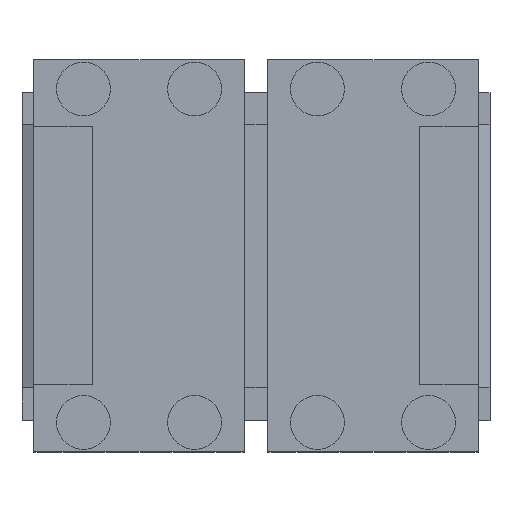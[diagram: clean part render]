
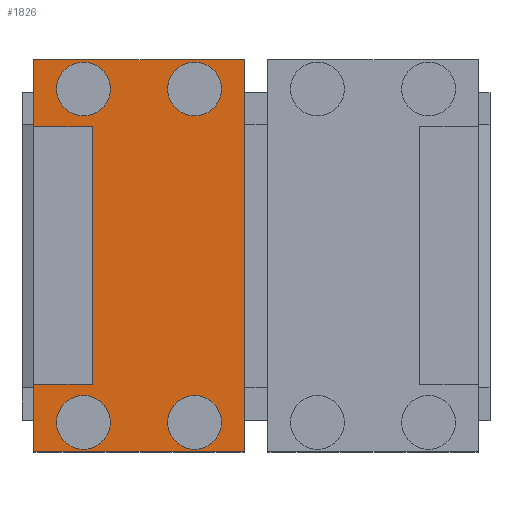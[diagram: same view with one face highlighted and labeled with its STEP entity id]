
A CAD part, top view. The second image highlights one B-rep face of the part: STEP entity #1826.
In plain terms, the highlighted planar face has unit normal (0, 0, 1).
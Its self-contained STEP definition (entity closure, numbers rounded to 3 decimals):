
#73 = LINE ( 'NONE', #2094, #2585 ) ;
#77 = CIRCLE ( 'NONE', #6212, 4.6 ) ;
#87 = DIRECTION ( 'NONE',  ( -1., 0., 0. ) ) ;
#145 = CARTESIAN_POINT ( 'NONE',  ( -38., -33.5, 114.5 ) ) ;
#157 = DIRECTION ( 'NONE',  ( -1., 0., 0. ) ) ;
#183 = CIRCLE ( 'NONE', #1551, 4.6 ) ;
#219 = EDGE_CURVE ( 'NONE', #2971, #4561, #73, .T. ) ;
#225 = ORIENTED_EDGE ( 'NONE', *, *, #3938, .F. ) ;
#239 = EDGE_CURVE ( 'NONE', #2971, #4268, #4981, .T. ) ;
#242 = DIRECTION ( 'NONE',  ( 1., 0., 0. ) ) ;
#303 = CARTESIAN_POINT ( 'NONE',  ( -38., 33.5, 114.5 ) ) ;
#338 = CARTESIAN_POINT ( 'NONE',  ( -5.9, -28.5, 114.5 ) ) ;
#404 = AXIS2_PLACEMENT_3D ( 'NONE', #3892, #5922, #1378 ) ;
#425 = EDGE_LOOP ( 'NONE', ( #5408, #603 ) ) ;
#451 = EDGE_CURVE ( 'NONE', #2799, #6516, #6190, .T. ) ;
#597 = CARTESIAN_POINT ( 'NONE',  ( -24.9, 28.5, 114.5 ) ) ;
#603 = ORIENTED_EDGE ( 'NONE', *, *, #2152, .F. ) ;
#646 = DIRECTION ( 'NONE',  ( 0., 0., 1. ) ) ;
#666 = CARTESIAN_POINT ( 'NONE',  ( -38., -33.5, 114.5 ) ) ;
#669 = VERTEX_POINT ( 'NONE', #3206 ) ;
#712 = DIRECTION ( 'NONE',  ( 0., 1., 0. ) ) ;
#799 = ORIENTED_EDGE ( 'NONE', *, *, #2078, .F. ) ;
#900 = EDGE_CURVE ( 'NONE', #3516, #6406, #5997, .T. ) ;
#902 = DIRECTION ( 'NONE',  ( 0., 0., 1. ) ) ;
#903 = DIRECTION ( 'NONE',  ( -1., 0., 0. ) ) ;
#1092 = EDGE_CURVE ( 'NONE', #4268, #2542, #4802, .T. ) ;
#1190 = FACE_BOUND ( 'NONE', #4652, .T. ) ;
#1250 = CARTESIAN_POINT ( 'NONE',  ( -29.5, -28.5, 114.5 ) ) ;
#1273 = CARTESIAN_POINT ( 'NONE',  ( -38., -22., 114.5 ) ) ;
#1282 = DIRECTION ( 'NONE',  ( -1., 0., 0. ) ) ;
#1353 = DIRECTION ( 'NONE',  ( -1., 0., 0. ) ) ;
#1378 = DIRECTION ( 'NONE',  ( -1., 0., 0. ) ) ;
#1495 = CIRCLE ( 'NONE', #5953, 4.6 ) ;
#1510 = AXIS2_PLACEMENT_3D ( 'NONE', #3132, #646, #87 ) ;
#1551 = AXIS2_PLACEMENT_3D ( 'NONE', #1250, #5264, #1353 ) ;
#1567 = EDGE_CURVE ( 'NONE', #4538, #6406, #4791, .T. ) ;
#1577 = EDGE_CURVE ( 'NONE', #669, #3516, #5820, .T. ) ;
#1586 = CARTESIAN_POINT ( 'NONE',  ( -24.9, -28.5, 114.5 ) ) ;
#1589 = CARTESIAN_POINT ( 'NONE',  ( -38., 22., 114.5 ) ) ;
#1641 = AXIS2_PLACEMENT_3D ( 'NONE', #4406, #5406, #903 ) ;
#1686 = FACE_BOUND ( 'NONE', #5364, .T. ) ;
#1746 = CARTESIAN_POINT ( 'NONE',  ( -10.5, -28.5, 114.5 ) ) ;
#1794 = DIRECTION ( 'NONE',  ( 0., 1., 0. ) ) ;
#1816 = CARTESIAN_POINT ( 'NONE',  ( -2., -33.5, 114.5 ) ) ;
#1826 = ADVANCED_FACE ( 'NONE', ( #4047, #1686, #3706, #5734, #1190 ), #6071, .F. ) ;
#1995 = VECTOR ( 'NONE', #4656, 1000. ) ;
#2078 = EDGE_CURVE ( 'NONE', #5474, #5091, #1495, .T. ) ;
#2094 = CARTESIAN_POINT ( 'NONE',  ( -2., -33.5, 114.5 ) ) ;
#2099 = CIRCLE ( 'NONE', #404, 4.6 ) ;
#2133 = ORIENTED_EDGE ( 'NONE', *, *, #239, .T. ) ;
#2139 = VECTOR ( 'NONE', #4826, 1000. ) ;
#2152 = EDGE_CURVE ( 'NONE', #4302, #6134, #77, .T. ) ;
#2156 = EDGE_CURVE ( 'NONE', #2742, #5547, #183, .T. ) ;
#2245 = DIRECTION ( 'NONE',  ( 0., 0., 1. ) ) ;
#2371 = ORIENTED_EDGE ( 'NONE', *, *, #1567, .T. ) ;
#2464 = CARTESIAN_POINT ( 'NONE',  ( -15.1, 28.5, 114.5 ) ) ;
#2513 = EDGE_LOOP ( 'NONE', ( #5084, #5806 ) ) ;
#2542 = VERTEX_POINT ( 'NONE', #303 ) ;
#2585 = VECTOR ( 'NONE', #4115, 1000. ) ;
#2742 = VERTEX_POINT ( 'NONE', #1586 ) ;
#2799 = VERTEX_POINT ( 'NONE', #597 ) ;
#2867 = CARTESIAN_POINT ( 'NONE',  ( -15.1, -28.5, 114.5 ) ) ;
#2971 = VERTEX_POINT ( 'NONE', #1816 ) ;
#2986 = DIRECTION ( 'NONE',  ( 0., 1., 0. ) ) ;
#3011 = DIRECTION ( 'NONE',  ( 0., 1., 0. ) ) ;
#3109 = VECTOR ( 'NONE', #1794, 1000. ) ;
#3132 = CARTESIAN_POINT ( 'NONE',  ( -29.5, -28.5, 114.5 ) ) ;
#3186 = CARTESIAN_POINT ( 'NONE',  ( -38., 22., 114.5 ) ) ;
#3206 = CARTESIAN_POINT ( 'NONE',  ( -38., -22., 114.5 ) ) ;
#3207 = DIRECTION ( 'NONE',  ( 0., 0., -1. ) ) ;
#3217 = VECTOR ( 'NONE', #712, 1000. ) ;
#3292 = ORIENTED_EDGE ( 'NONE', *, *, #3654, .F. ) ;
#3318 = ORIENTED_EDGE ( 'NONE', *, *, #5433, .F. ) ;
#3322 = AXIS2_PLACEMENT_3D ( 'NONE', #4386, #4316, #5819 ) ;
#3375 = CARTESIAN_POINT ( 'NONE',  ( -28., -22., 114.5 ) ) ;
#3407 = DIRECTION ( 'NONE',  ( -1., 0., 0. ) ) ;
#3516 = VERTEX_POINT ( 'NONE', #5032 ) ;
#3612 = VECTOR ( 'NONE', #242, 1000. ) ;
#3654 = EDGE_CURVE ( 'NONE', #5547, #2742, #4475, .T. ) ;
#3706 = FACE_BOUND ( 'NONE', #2513, .T. ) ;
#3717 = LINE ( 'NONE', #145, #3217 ) ;
#3766 = DIRECTION ( 'NONE',  ( 0., 0., 1. ) ) ;
#3785 = CARTESIAN_POINT ( 'NONE',  ( -5.9, 28.5, 114.5 ) ) ;
#3892 = CARTESIAN_POINT ( 'NONE',  ( -10.5, -28.5, 114.5 ) ) ;
#3922 = ORIENTED_EDGE ( 'NONE', *, *, #1577, .F. ) ;
#3938 = EDGE_CURVE ( 'NONE', #5091, #5474, #2099, .T. ) ;
#4022 = ORIENTED_EDGE ( 'NONE', *, *, #2156, .F. ) ;
#4047 = FACE_OUTER_BOUND ( 'NONE', #4769, .T. ) ;
#4115 = DIRECTION ( 'NONE',  ( -1., 0., 0. ) ) ;
#4121 = LINE ( 'NONE', #4585, #1995 ) ;
#4124 = EDGE_CURVE ( 'NONE', #4561, #669, #4121, .T. ) ;
#4236 = CARTESIAN_POINT ( 'NONE',  ( -2., 33.5, 114.5 ) ) ;
#4268 = VERTEX_POINT ( 'NONE', #5286 ) ;
#4302 = VERTEX_POINT ( 'NONE', #3785 ) ;
#4316 = DIRECTION ( 'NONE',  ( 0., 0., 1. ) ) ;
#4386 = CARTESIAN_POINT ( 'NONE',  ( -10.5, 28.5, 114.5 ) ) ;
#4406 = CARTESIAN_POINT ( 'NONE',  ( -29.5, 28.5, 114.5 ) ) ;
#4475 = CIRCLE ( 'NONE', #1510, 4.6 ) ;
#4538 = VERTEX_POINT ( 'NONE', #1589 ) ;
#4561 = VERTEX_POINT ( 'NONE', #666 ) ;
#4585 = CARTESIAN_POINT ( 'NONE',  ( -38., -33.5, 114.5 ) ) ;
#4652 = EDGE_LOOP ( 'NONE', ( #3292, #4022 ) ) ;
#4656 = DIRECTION ( 'NONE',  ( 0., 1., 0. ) ) ;
#4680 = ORIENTED_EDGE ( 'NONE', *, *, #4124, .F. ) ;
#4755 = ORIENTED_EDGE ( 'NONE', *, *, #1092, .T. ) ;
#4769 = EDGE_LOOP ( 'NONE', ( #3318, #2371, #6209, #3922, #4680, #4900, #2133, #4755 ) ) ;
#4791 = LINE ( 'NONE', #3186, #3612 ) ;
#4802 = LINE ( 'NONE', #4236, #5763 ) ;
#4826 = DIRECTION ( 'NONE',  ( 1., 0., 0. ) ) ;
#4873 = EDGE_CURVE ( 'NONE', #6516, #2799, #5290, .T. ) ;
#4900 = ORIENTED_EDGE ( 'NONE', *, *, #219, .F. ) ;
#4924 = CARTESIAN_POINT ( 'NONE',  ( -34.1, -28.5, 114.5 ) ) ;
#4948 = CARTESIAN_POINT ( 'NONE',  ( -34.1, 28.5, 114.5 ) ) ;
#4981 = LINE ( 'NONE', #5642, #3109 ) ;
#4998 = AXIS2_PLACEMENT_3D ( 'NONE', #5578, #3207, #2986 ) ;
#5032 = CARTESIAN_POINT ( 'NONE',  ( -28., -22., 114.5 ) ) ;
#5084 = ORIENTED_EDGE ( 'NONE', *, *, #4873, .F. ) ;
#5091 = VERTEX_POINT ( 'NONE', #2867 ) ;
#5264 = DIRECTION ( 'NONE',  ( 0., 0., 1. ) ) ;
#5286 = CARTESIAN_POINT ( 'NONE',  ( -2., 33.5, 114.5 ) ) ;
#5290 = CIRCLE ( 'NONE', #5924, 4.6 ) ;
#5364 = EDGE_LOOP ( 'NONE', ( #225, #799 ) ) ;
#5406 = DIRECTION ( 'NONE',  ( 0., 0., 1. ) ) ;
#5408 = ORIENTED_EDGE ( 'NONE', *, *, #5473, .F. ) ;
#5433 = EDGE_CURVE ( 'NONE', #4538, #2542, #3717, .T. ) ;
#5473 = EDGE_CURVE ( 'NONE', #6134, #4302, #5767, .T. ) ;
#5474 = VERTEX_POINT ( 'NONE', #338 ) ;
#5532 = CARTESIAN_POINT ( 'NONE',  ( -29.5, 28.5, 114.5 ) ) ;
#5547 = VERTEX_POINT ( 'NONE', #4924 ) ;
#5578 = CARTESIAN_POINT ( 'NONE',  ( -2., -33.5, 114.5 ) ) ;
#5642 = CARTESIAN_POINT ( 'NONE',  ( -2., -33.5, 114.5 ) ) ;
#5734 = FACE_BOUND ( 'NONE', #425, .T. ) ;
#5763 = VECTOR ( 'NONE', #157, 1000. ) ;
#5767 = CIRCLE ( 'NONE', #3322, 4.6 ) ;
#5795 = DIRECTION ( 'NONE',  ( -1., 0., 0. ) ) ;
#5806 = ORIENTED_EDGE ( 'NONE', *, *, #451, .F. ) ;
#5819 = DIRECTION ( 'NONE',  ( -1., 0., 0. ) ) ;
#5820 = LINE ( 'NONE', #1273, #2139 ) ;
#5897 = CARTESIAN_POINT ( 'NONE',  ( -10.5, 28.5, 114.5 ) ) ;
#5922 = DIRECTION ( 'NONE',  ( 0., 0., 1. ) ) ;
#5924 = AXIS2_PLACEMENT_3D ( 'NONE', #5532, #902, #3407 ) ;
#5953 = AXIS2_PLACEMENT_3D ( 'NONE', #1746, #2245, #1282 ) ;
#5994 = VECTOR ( 'NONE', #3011, 1000. ) ;
#5997 = LINE ( 'NONE', #3375, #5994 ) ;
#6071 = PLANE ( 'NONE',  #4998 ) ;
#6134 = VERTEX_POINT ( 'NONE', #2464 ) ;
#6190 = CIRCLE ( 'NONE', #1641, 4.6 ) ;
#6209 = ORIENTED_EDGE ( 'NONE', *, *, #900, .F. ) ;
#6212 = AXIS2_PLACEMENT_3D ( 'NONE', #5897, #3766, #5795 ) ;
#6304 = CARTESIAN_POINT ( 'NONE',  ( -28., 22., 114.5 ) ) ;
#6406 = VERTEX_POINT ( 'NONE', #6304 ) ;
#6516 = VERTEX_POINT ( 'NONE', #4948 ) ;
